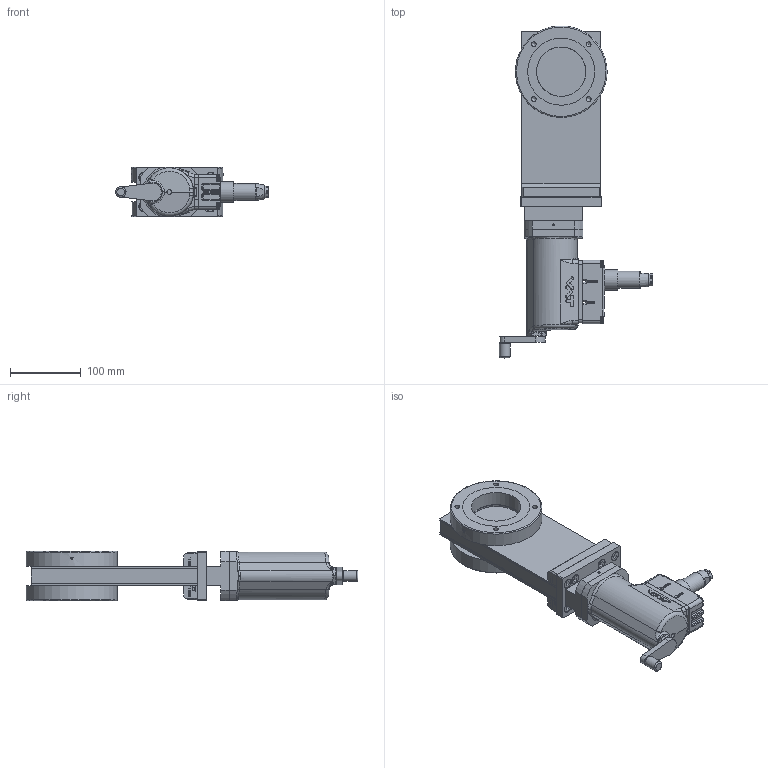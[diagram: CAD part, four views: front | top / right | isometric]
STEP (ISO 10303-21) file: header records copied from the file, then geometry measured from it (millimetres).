
FILE_DESCRIPTION(/* description */ (''),/* implementation_level */ '2;1');
FILE_NAME(/* name */ '1320598525_203.stp',/* time_stamp */ '2016-01-11T10:08:58+01:00',/* author */ (''),/* organization */ (''),/* preprocessor_version */ 'ST-DEVELOPER v15',/* originating_system */ 'SIEMENS PLM Software NX 9.0',/* authorisation */ '');
FILE_SCHEMA (('AP203_CONFIGURATION_CONTROLLED_3D_DESIGN_OF_MECHANICAL_PARTS_AND_ASSEMBLIES_MIM_LF { 1 0 10303 403 2 1 2}'));
Products named in the file (31): 441451_24371ID; 21436-01.1_24384ID; 21437-01.1_24383ID; 21438-01.1; 441451_24380ID; 21437-01.1_24379ID; 21436-01.1_24373ID; 70988-01.1; 70987-01.1; 392521; 70973-01.1; n-8504-002; n-6024-549.1; 82480-R1_1.2; 78964-01_01.1; 79149-01.1; 79148-01.1; 69127.1; 72872-01.1; 23553-01.1_24375ID; 23553-01.1; n-6099-454.1; 63215-01.1; 218198.1; 790428; 790419_MODEL; 82480-r1.3; 82467-r1.1; 22974-r1.2_MODEL; 23552-r1.2_MODEL; 790814
Assembly tree (43 placements, depth 4):
  790814
    23552-r1.2_MODEL
      n-6099-454.1  x2
      23553-01.1
      23553-01.1_24375ID
      22974-r1.2_MODEL
        21436-01.1_24373ID
        21437-01.1_24379ID
        441451_24380ID
        21438-01.1
        21437-01.1_24383ID
        21436-01.1_24384ID
        441451_24371ID
    790428
    82467-r1.1
      72872-01.1
      69127.1
    82480-r1.3
      79148-01.1
      79149-01.1
      78964-01_01.1
      82480-R1_1.2
    218198.1  x8
    63215-01.1
    790419_MODEL
      n-6024-549.1  x4
      n-8504-002
      70973-01.1
      392521  x2
      70987-01.1
      70988-01.1  x2
Bounding box: 217.1 x 470.88 x 70 mm (x, y, z)
Volume: 1324774.1 mm3; surface area: 431771.4 mm2
Topology: 114 solids, 114 shells, 2276 faces, 5782 edges, 3914 vertices
Faces by surface type: plane 1634, cylinder 405, torus 81, cone 64, extrusion 58, bspline 30, sphere 4
Full cylindrical faces by diameter (mm): 1.66 x7, 2 x30, 2.5 x14, 2.8 x2, 3 x1, 4 x10, 4.3 x4, 4.35 x2, 4.45 x4, 4.625 x4, 4.75 x8, 5 x1, 6.66 x8, 6.7 x8, 6.8 x20, 7 x1, 7.5 x4, 8 x20, 9 x8, 10 x1, 13 x8, 13.3 x1, 14.1 x5, 15 x2, 20 x1, 23.5 x1, 24.1 x1, 24.3 x1, 28 x1, 29 x1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
Entity records: 72336 total; most frequent: CARTESIAN_POINT 17430, ORIENTED_EDGE 9806, DIRECTION 8707, EDGE_CURVE 4903, VERTEX_POINT 3468, VECTOR 3025, LINE 2967, AXIS2_PLACEMENT_3D 2841
